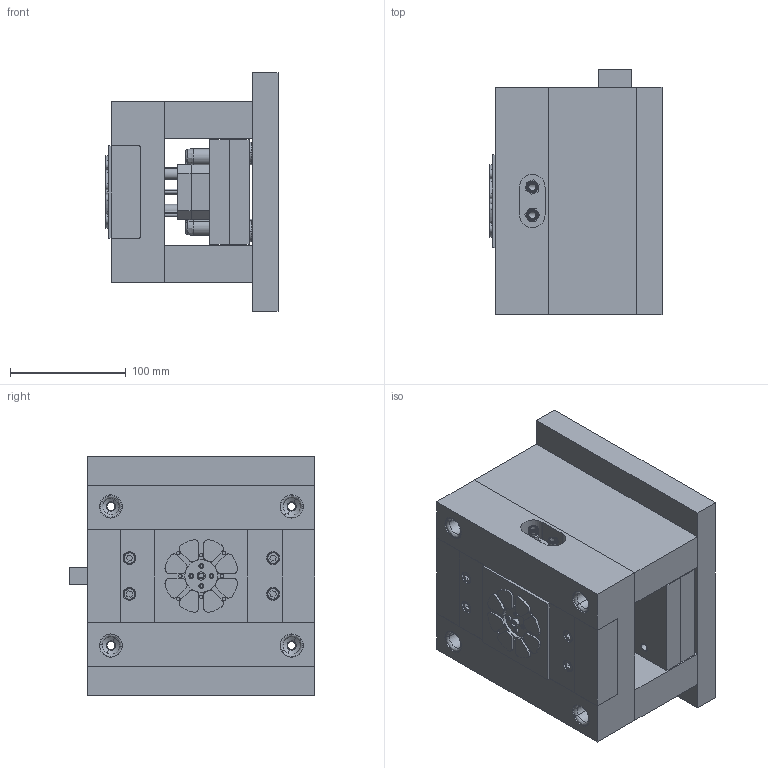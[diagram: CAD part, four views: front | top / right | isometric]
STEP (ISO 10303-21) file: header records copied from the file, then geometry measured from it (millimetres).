
FILE_DESCRIPTION (( 'STEP AP203' ), '1' );
FILE_NAME ('000 Moule partie mobile.STEP', '2021-10-27T18:13:35', ( '' ), ( '' ), 'SwSTEP 2.0', 'SolidWorks 2019', '' );
FILE_SCHEMA (( 'CONFIG_CONTROL_DESIGN' ));
Length unit declared in the file: millimetre
Products named in the file (35): 026 Rondelle Elastique; 009 Contre Plaque porte Ejection; 021 Douille de guidage; 018 Bague de Guidage; 000 Moule partie mobile; 027 Rondelle Elastique; 038 Vis FHc M4x8; 035 Vis CHc M8x16; 007 Plaque empreinte partie mobile; 032 Vis CHc M6x22; 031 Vis CHc M5x20; 020 Bague de Guidage; 008 embout; 019 Colonne de Guidage; 011 Contre Plaque d''Ejection; 023 Raccord; 010 Plaque porte Ejection; 022 Douille de Guidage; 014 Verrou; 013 Vis de Verouillage; 030 Rondelle de Butée; 040 Ejecteur; 012 Plaque d''Ejection; 004 Plaque Porte Empreinte; 033 Vis CHc M6x30; 017 Bague de Guidage; 037 Vis CHc M10x95; 002 Plaque de Fixation; 025 Joint Torique; 028 Rondelle Elastique; 034 Vis CHc M6x60; 005 Entretoise; 024 Bouchon Fiteté; 029 Rondelle; 041 Arrache carrotte
Assembly tree (91 placements, depth 2):
  000 Moule partie mobile
    002 Plaque de Fixation
    004 Plaque Porte Empreinte
    005 Entretoise  x2
    007 Plaque empreinte partie mobile
    008 embout  x2
    009 Contre Plaque porte Ejection
    010 Plaque porte Ejection
    011 Contre Plaque d''Ejection
    012 Plaque d''Ejection
    013 Vis de Verouillage
    014 Verrou
    017 Bague de Guidage
    018 Bague de Guidage  x3
    019 Colonne de Guidage  x2
    020 Bague de Guidage  x2
    021 Douille de guidage  x2
    022 Douille de Guidage  x4
    023 Raccord  x2
    024 Bouchon Fiteté  x6
    025 Joint Torique  x2
    026 Rondelle Elastique  x4
    027 Rondelle Elastique  x4
    028 Rondelle Elastique  x4
    029 Rondelle  x2
    030 Rondelle de Butée  x4
    031 Vis CHc M5x20  x4
    032 Vis CHc M6x22  x5
    033 Vis CHc M6x30  x4
    034 Vis CHc M6x60  x2
    035 Vis CHc M8x16  x4
    037 Vis CHc M10x95  x4
    038 Vis FHc M4x8  x4
    040 Ejecteur  x8
    041 Arrache carrotte
Bounding box: 148.5 x 212 x 206 mm (x, y, z)
Volume: 3725678.7 mm3; surface area: 719580.6 mm2
Topology: 91 solids, 91 shells, 2355 faces, 5629 edges, 3592 vertices
Faces by surface type: cylinder 1026, plane 891, bspline 326, cone 112
Entity records: 46957 total; most frequent: CARTESIAN_POINT 9455, DIRECTION 7170, ORIENTED_EDGE 6388, EDGE_CURVE 3194, AXIS2_PLACEMENT_3D 2807, VERTEX_POINT 2070, EDGE_LOOP 1650, LINE 1556
